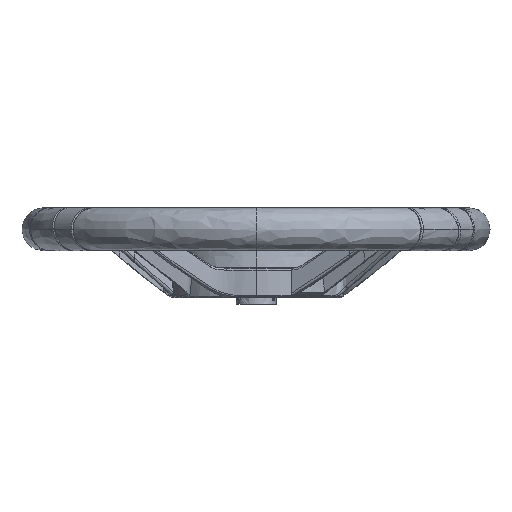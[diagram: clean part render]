
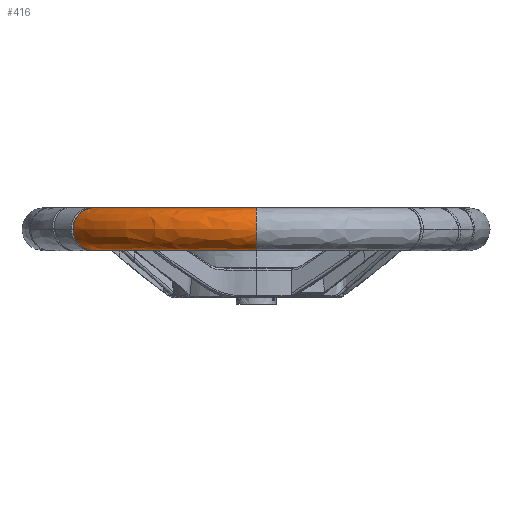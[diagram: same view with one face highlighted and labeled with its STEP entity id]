
A CAD part, front view. The second image highlights one B-rep face of the part: STEP entity #416.
In plain terms, the highlighted free-form (B-spline) face has degree [2, 2] with [3, 5] control points.
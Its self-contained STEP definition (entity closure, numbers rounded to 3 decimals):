
#416=ADVANCED_FACE($,(#1112),#8920,.T.);
#1112=FACE_OUTER_BOUND($,#1830,.T.);
#1830=EDGE_LOOP($,(#3757,#3758,#3759,#3760,#3761));
#3757=ORIENTED_EDGE($,*,*,#6517,.T.);
#3758=ORIENTED_EDGE($,*,*,#6515,.T.);
#3759=ORIENTED_EDGE($,*,*,#6505,.T.);
#3760=ORIENTED_EDGE($,*,*,#6497,.T.);
#3761=ORIENTED_EDGE($,*,*,#6516,.F.);
#6497=EDGE_CURVE($,#7957,#7965,#10478,.T.);
#6505=EDGE_CURVE($,#7962,#7957,#10480,.T.);
#6515=EDGE_CURVE($,#7968,#7962,#9657,.T.);
#6516=EDGE_CURVE($,#7969,#7965,#10485,.T.);
#6517=EDGE_CURVE($,#7969,#7968,#9658,.T.);
#7957=VERTEX_POINT($,#30102);
#7962=VERTEX_POINT($,#30107);
#7965=VERTEX_POINT($,#30110);
#7968=VERTEX_POINT($,#30113);
#7969=VERTEX_POINT($,#30114);
#8920=(
BOUNDED_SURFACE()
B_SPLINE_SURFACE(2,2,((#30085,#30086,#30087,#30088,#30089),(#30090,#30091,
#30092,#30093,#30094),(#30095,#30096,#30097,#30098,#30099)),.UNSPECIFIED.,
.F.,.F.,.F.)
B_SPLINE_SURFACE_WITH_KNOTS((3,3),(3,2,3),(24.844,183.26),
(0.,25.133,50.265),.UNSPECIFIED.)
GEOMETRIC_REPRESENTATION_ITEM()
RATIONAL_B_SPLINE_SURFACE(((1.,0.707,1.,0.707,1.),
(0.899,0.636,0.899,0.636,
0.899),(1.,0.707,1.,0.707,1.)))
REPRESENTATION_ITEM($)
SURFACE()
);
#9657=B_SPLINE_CURVE_WITH_KNOTS($,3,(#29388,#29389,#29390,#29391,#29392,
#29393,#29394,#29395,#29396,#29397,#29398,#29399,#29400,#29401,#29402,#29403,
#29404,#29405,#29406,#29407,#29408,#29409),.UNSPECIFIED.,.F.,.F.,(4,2,2,
2,2,2,2,2,2,2,4),(77.247,78.74,79.55,80.359,
83.597,86.83,90.059,93.281,96.5,
99.715,102.926),.UNSPECIFIED.);
#9658=B_SPLINE_CURVE_WITH_KNOTS($,3,(#29413,#29414,#29415,#29416,#29417,
#29418,#29419,#29420,#29421,#29422,#29423,#29424,#29425,#29426,#29427,#29428,
#29429,#29430,#29431,#29432,#29433,#29434,#29435,#29436,#29437,#29438,#29439,
#29440,#29441,#29442,#29443,#29444,#29445,#29446,#29447,#29448,#29449,#29450,
#29451,#29452,#29453,#29454,#29455,#29456,#29457,#29458,#29459,#29460,#29461,
#29462),.UNSPECIFIED.,.F.,.F.,(4,2,2,2,2,2,2,2,2,2,2,2,2,2,2,2,2,2,2,2,2,
2,2,2,4),(51.567,52.113,52.918,54.53,
55.333,56.135,56.937,57.739,59.344,
60.946,61.745,62.544,64.142,67.401,
69.028,70.653,71.464,72.273,73.082,
73.889,74.696,75.503,76.31,77.117,
77.247),.UNSPECIFIED.);
#10478=(
BOUNDED_CURVE()
B_SPLINE_CURVE(2,(#28930,#28931,#28932,#28933,#28934),.UNSPECIFIED.,.F.,
.F.)
B_SPLINE_CURVE_WITH_KNOTS((3,2,3),(-100.518,-75.388,-50.259),
.UNSPECIFIED.)
CURVE()
GEOMETRIC_REPRESENTATION_ITEM()
RATIONAL_B_SPLINE_CURVE((1.,0.659,0.868,0.659,
1.))
REPRESENTATION_ITEM($)
);
#10480=(
BOUNDED_CURVE()
B_SPLINE_CURVE(2,(#29185,#29186,#29187),.UNSPECIFIED.,.F.,.F.)
B_SPLINE_CURVE_WITH_KNOTS((3,3),(0.179,1.047),.UNSPECIFIED.)
CURVE()
GEOMETRIC_REPRESENTATION_ITEM()
RATIONAL_B_SPLINE_CURVE((1.,0.907,1.))
REPRESENTATION_ITEM($)
);
#10485=(
BOUNDED_CURVE()
B_SPLINE_CURVE(2,(#29410,#29411,#29412),.UNSPECIFIED.,.F.,.F.)
B_SPLINE_CURVE_WITH_KNOTS((3,3),(31.365,183.26),.UNSPECIFIED.)
CURVE()
GEOMETRIC_REPRESENTATION_ITEM()
RATIONAL_B_SPLINE_CURVE((1.,0.907,1.))
REPRESENTATION_ITEM($)
);
#28930=CARTESIAN_POINT($,(0.,-159.,28.));
#28931=CARTESIAN_POINT($,(0.,-175.,28.));
#28932=CARTESIAN_POINT($,(0.,-175.,44.));
#28933=CARTESIAN_POINT($,(0.,-175.,60.));
#28934=CARTESIAN_POINT($,(0.,-159.,60.));
#29185=CARTESIAN_POINT($,(-121.32,-102.774,28.));
#29186=CARTESIAN_POINT($,(-73.689,-159.,28.));
#29187=CARTESIAN_POINT($,(0.,-159.,28.));
#29388=CARTESIAN_POINT($,(-136.675,-109.293,44.));
#29389=CARTESIAN_POINT($,(-136.675,-109.293,43.502));
#29390=CARTESIAN_POINT($,(-136.653,-109.283,43.007));
#29391=CARTESIAN_POINT($,(-136.585,-109.254,42.242));
#29392=CARTESIAN_POINT($,(-136.554,-109.241,41.975));
#29393=CARTESIAN_POINT($,(-136.48,-109.21,41.44));
#29394=CARTESIAN_POINT($,(-136.437,-109.191,41.174));
#29395=CARTESIAN_POINT($,(-136.188,-109.086,39.851));
#29396=CARTESIAN_POINT($,(-135.887,-108.958,38.818));
#29397=CARTESIAN_POINT($,(-135.095,-108.622,36.838));
#29398=CARTESIAN_POINT($,(-134.606,-108.414,35.896));
#29399=CARTESIAN_POINT($,(-133.462,-107.929,34.134));
#29400=CARTESIAN_POINT($,(-132.81,-107.652,33.319));
#29401=CARTESIAN_POINT($,(-131.368,-107.04,31.843));
#29402=CARTESIAN_POINT($,(-130.583,-106.707,31.185));
#29403=CARTESIAN_POINT($,(-128.908,-105.996,30.042));
#29404=CARTESIAN_POINT($,(-128.023,-105.62,29.56));
#29405=CARTESIAN_POINT($,(-126.181,-104.838,28.783));
#29406=CARTESIAN_POINT($,(-125.229,-104.434,28.49));
#29407=CARTESIAN_POINT($,(-123.29,-103.611,28.098));
#29408=CARTESIAN_POINT($,(-122.305,-103.193,28.));
#29409=CARTESIAN_POINT($,(-121.32,-102.774,28.));
#29410=CARTESIAN_POINT($,(-121.32,-102.774,60.));
#29411=CARTESIAN_POINT($,(-73.689,-159.,60.));
#29412=CARTESIAN_POINT($,(0.,-159.,60.));
#29413=CARTESIAN_POINT($,(-121.32,-102.774,60.));
#29414=CARTESIAN_POINT($,(-121.487,-102.845,60.));
#29415=CARTESIAN_POINT($,(-121.654,-102.917,59.997));
#29416=CARTESIAN_POINT($,(-122.069,-103.093,59.983));
#29417=CARTESIAN_POINT($,(-122.316,-103.197,59.969));
#29418=CARTESIAN_POINT($,(-123.056,-103.511,59.906));
#29419=CARTESIAN_POINT($,(-123.545,-103.719,59.841));
#29420=CARTESIAN_POINT($,(-124.276,-104.029,59.705));
#29421=CARTESIAN_POINT($,(-124.518,-104.132,59.654));
#29422=CARTESIAN_POINT($,(-124.999,-104.336,59.539));
#29423=CARTESIAN_POINT($,(-125.239,-104.438,59.476));
#29424=CARTESIAN_POINT($,(-125.714,-104.64,59.337));
#29425=CARTESIAN_POINT($,(-125.951,-104.74,59.262));
#29426=CARTESIAN_POINT($,(-126.42,-104.939,59.099));
#29427=CARTESIAN_POINT($,(-126.652,-105.038,59.012));
#29428=CARTESIAN_POINT($,(-127.345,-105.332,58.732));
#29429=CARTESIAN_POINT($,(-127.797,-105.524,58.524));
#29430=CARTESIAN_POINT($,(-128.684,-105.9,58.058));
#29431=CARTESIAN_POINT($,(-129.115,-106.083,57.805));
#29432=CARTESIAN_POINT($,(-129.745,-106.351,57.39));
#29433=CARTESIAN_POINT($,(-129.952,-106.439,57.246));
#29434=CARTESIAN_POINT($,(-130.359,-106.611,56.948));
#29435=CARTESIAN_POINT($,(-130.559,-106.696,56.794));
#29436=CARTESIAN_POINT($,(-131.149,-106.947,56.316));
#29437=CARTESIAN_POINT($,(-131.526,-107.107,55.979));
#29438=CARTESIAN_POINT($,(-132.63,-107.575,54.888));
#29439=CARTESIAN_POINT($,(-133.301,-107.86,54.078));
#29440=CARTESIAN_POINT($,(-134.187,-108.236,52.762));
#29441=CARTESIAN_POINT($,(-134.46,-108.352,52.31));
#29442=CARTESIAN_POINT($,(-134.964,-108.566,51.373));
#29443=CARTESIAN_POINT($,(-135.192,-108.663,50.894));
#29444=CARTESIAN_POINT($,(-135.501,-108.794,50.153));
#29445=CARTESIAN_POINT($,(-135.598,-108.835,49.905));
#29446=CARTESIAN_POINT($,(-135.78,-108.912,49.401));
#29447=CARTESIAN_POINT($,(-135.864,-108.948,49.147));
#29448=CARTESIAN_POINT($,(-136.022,-109.015,48.635));
#29449=CARTESIAN_POINT($,(-136.094,-109.046,48.377));
#29450=CARTESIAN_POINT($,(-136.226,-109.102,47.857));
#29451=CARTESIAN_POINT($,(-136.286,-109.127,47.596));
#29452=CARTESIAN_POINT($,(-136.393,-109.173,47.07));
#29453=CARTESIAN_POINT($,(-136.44,-109.193,46.806));
#29454=CARTESIAN_POINT($,(-136.522,-109.227,46.275));
#29455=CARTESIAN_POINT($,(-136.556,-109.242,46.009));
#29456=CARTESIAN_POINT($,(-136.612,-109.266,45.474));
#29457=CARTESIAN_POINT($,(-136.634,-109.275,45.206));
#29458=CARTESIAN_POINT($,(-136.664,-109.288,44.668));
#29459=CARTESIAN_POINT($,(-136.673,-109.291,44.399));
#29460=CARTESIAN_POINT($,(-136.675,-109.292,44.087));
#29461=CARTESIAN_POINT($,(-136.675,-109.293,44.043));
#29462=CARTESIAN_POINT($,(-136.675,-109.293,44.));
#30085=CARTESIAN_POINT($,(-125.064,-98.183,28.));
#30086=CARTESIAN_POINT($,(-137.649,-108.063,28.));
#30087=CARTESIAN_POINT($,(-137.649,-108.063,44.));
#30088=CARTESIAN_POINT($,(-137.649,-108.063,60.));
#30089=CARTESIAN_POINT($,(-125.064,-98.183,60.));
#30090=CARTESIAN_POINT($,(-77.319,-159.,28.));
#30091=CARTESIAN_POINT($,(-85.1,-175.,28.));
#30092=CARTESIAN_POINT($,(-85.1,-175.,44.));
#30093=CARTESIAN_POINT($,(-85.1,-175.,60.));
#30094=CARTESIAN_POINT($,(-77.319,-159.,60.));
#30095=CARTESIAN_POINT($,(0.,-159.,28.));
#30096=CARTESIAN_POINT($,(0.,-175.,28.));
#30097=CARTESIAN_POINT($,(0.,-175.,44.));
#30098=CARTESIAN_POINT($,(0.,-175.,60.));
#30099=CARTESIAN_POINT($,(0.,-159.,60.));
#30102=CARTESIAN_POINT($,(0.,-159.,28.));
#30107=CARTESIAN_POINT($,(-121.32,-102.774,28.));
#30110=CARTESIAN_POINT($,(0.,-159.,60.));
#30113=CARTESIAN_POINT($,(-136.675,-109.293,44.));
#30114=CARTESIAN_POINT($,(-121.32,-102.774,60.));
